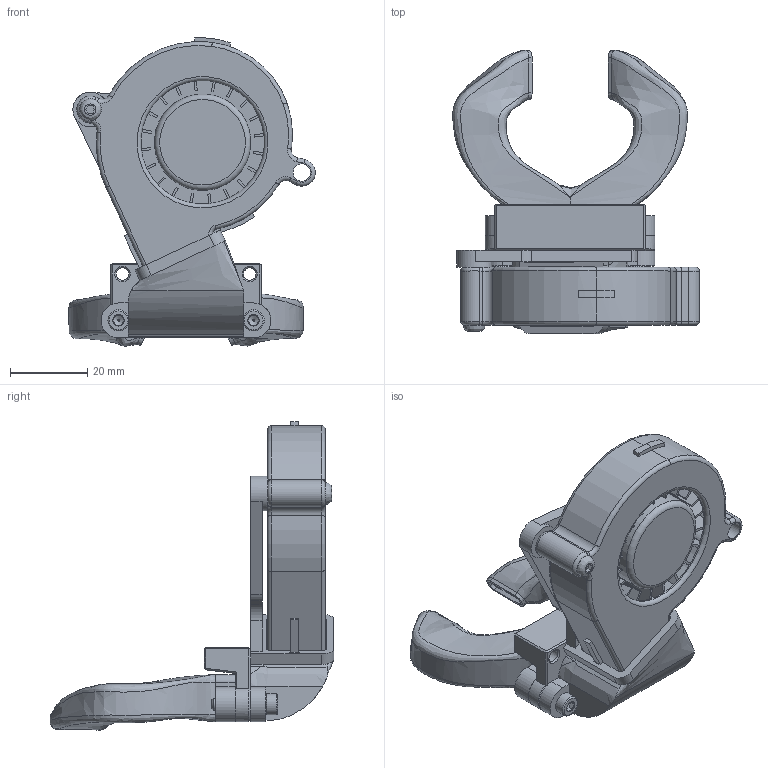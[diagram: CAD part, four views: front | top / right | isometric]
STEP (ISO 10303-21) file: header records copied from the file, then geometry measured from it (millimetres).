
FILE_DESCRIPTION(/* description */ (''),/* implementation_level */ '2;1');
FILE_NAME(/* name */ '5015_new_duct_assembly_mgn9h.step',/* time_stamp */ '2026-07-08T01:40:03+02:00',/* author */ (''),/* organization */ (''),/* preprocessor_version */ 'ST-DEVELOPER v20.1',/* originating_system */ 'Autodesk Translation Framework v15.8.0.0',/* authorisation */ '');
FILE_SCHEMA (('AUTOMOTIVE_DESIGN { 1 0 10303 214 3 1 1 }'));
Products named in the file (6): New fan duct MGN9H; Hardware; Knurled Insert M3xH4; M3x14-Screw089; VITE_TESTA_BOMBATA_ESAGONO_INCASSATO; 5015 fan
Assembly tree (9 placements, depth 3):
  New fan duct MGN9H
    Hardware
      Knurled Insert M3xH4  x3
      M3x14-Screw089  x3
      VITE_TESTA_BOMBATA_ESAGONO_INCASSATO
    5015 fan
Bounding box: 63.94 x 73.55 x 79.98 mm (x, y, z)
Volume: 31446.8 mm3; surface area: 38541.1 mm2
Topology: 11 solids, 11 shells, 1038 faces, 2740 edges, 1697 vertices
Faces by surface type: plane 400, bspline 328, cylinder 224, cone 49, torus 36, sphere 1
Full cylindrical faces by diameter (mm): 2.459 x3, 3 x4, 3.2 x4, 3.3 x5, 3.734 x6, 4 x3, 4.5 x2, 5.5 x3, 6.5 x3, 9 x1, 19.703 x1, 25 x1, 32 x1, 40.6 x1
Entity records: 330928 total; most frequent: CARTESIAN_POINT 312749, ORIENTED_EDGE 4208, DIRECTION 3087, EDGE_CURVE 2104, VERTEX_POINT 1355, AXIS2_PLACEMENT_3D 1102, LINE 883, VECTOR 883
